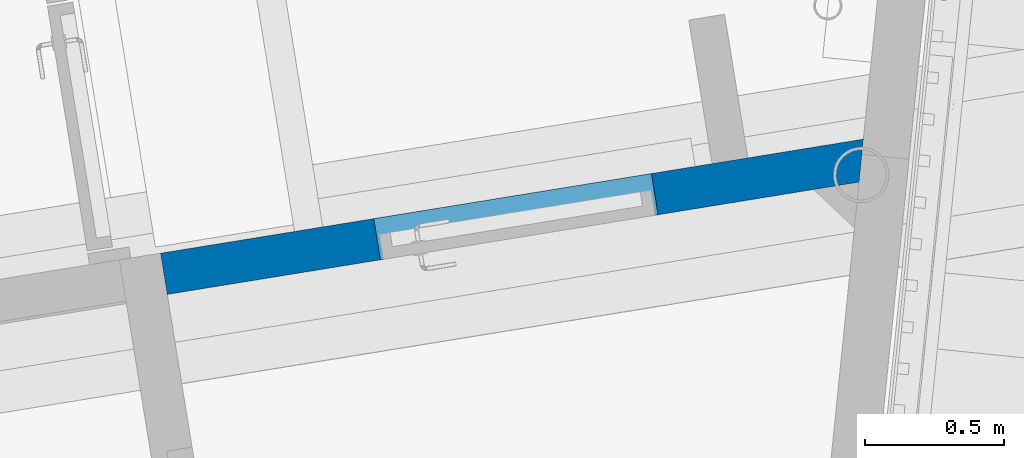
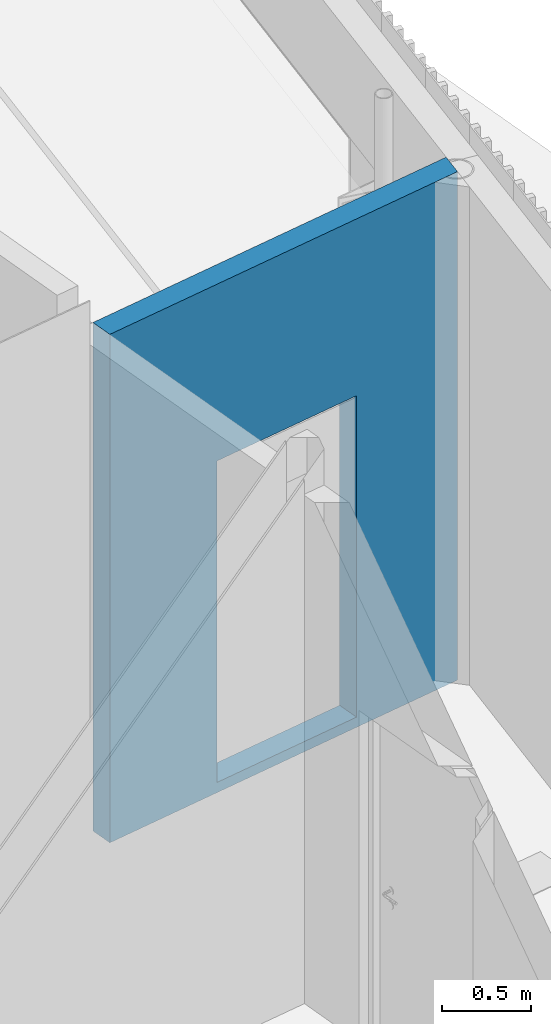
# One storey, part 20 of 23: 1 wall, 1 opening.
"""IFC2X3 building model written with IfcOpenShell, lengths in millimetres."""

from ifc_helpers import new_model, entity, si_unit, converted_unit, derived_unit, direction, frame, frame_2d, origin, origin_with_axes, place, context, subcontext, project, spatial, rectangle, extrude, faceted_brep, material, layer, layer_set, type_object, element, save


model = new_model("IFC2X3")

# Units and contexts
plan_context = context("Plan", 3, precision=1e-05, world=origin_with_axes())
model_context = context("Model", 3, precision=0.01, world=origin(), true_north=direction((6.12323399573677e-17, 1.0)))
body_context = subcontext(model_context, "Body", "Model", "MODEL_VIEW")
ifc_project = project(units=[converted_unit("PLANEANGLEUNIT", "DEGREE", entity("IfcPositiveLengthMeasure", 0.0174532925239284), si_unit("PLANEANGLEUNIT", "RADIAN"), dimensions=[0, 0, 0, 0, 0, 0, 0]), si_unit("AREAUNIT", "SQUARE_METRE"), si_unit("LENGTHUNIT", "METRE", prefix="MILLI"), si_unit("MASSUNIT", "GRAM", prefix="KILO"), si_unit("POWERUNIT", "WATT"), si_unit("PRESSUREUNIT", "PASCAL", prefix="KILO"), si_unit("FORCEUNIT", "NEWTON", prefix="KILO"), si_unit("ELECTRICVOLTAGEUNIT", "VOLT"), si_unit("ELECTRICCURRENTUNIT", "AMPERE"), si_unit("THERMODYNAMICTEMPERATUREUNIT", "DEGREE_CELSIUS"), si_unit("TIMEUNIT", "SECOND"), si_unit("VOLUMEUNIT", "CUBIC_METRE"), derived_unit("LINEARVELOCITYUNIT", [(si_unit("LENGTHUNIT", "METRE"), 1), (si_unit("TIMEUNIT", "SECOND"), -1)]), derived_unit("VOLUMETRICFLOWRATEUNIT", [(si_unit("VOLUMEUNIT", "CUBIC_METRE"), 1), (si_unit("TIMEUNIT", "SECOND"), -1)]), derived_unit("THERMALTRANSMITTANCEUNIT", [(si_unit("POWERUNIT", "WATT"), 1), (si_unit("THERMODYNAMICTEMPERATUREUNIT", "KELVIN"), -1), (si_unit("AREAUNIT", "SQUARE_METRE"), -1)]), derived_unit("SOUNDPRESSUREUNIT", [(si_unit("PRESSUREUNIT", "PASCAL"), 1)])], contexts=[model_context, plan_context])

# Site, building, storey
site_placement = place(None, frame((-0.00071070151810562, 0.00438415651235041, 0.0), z_axis=(0.0, 0.0, 1.0), x_axis=(-0.160236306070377, 0.987078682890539, 0.0)))
site = spatial("IfcSite", under=ifc_project, at=site_placement, Name="Default", CompositionType="ELEMENT")
building_placement = place(site_placement, origin_with_axes())
building = spatial("IfcBuilding", under=site, at=building_placement, Name="TOO", CompositionType="ELEMENT")
storey_placement = place(building_placement, frame((0.0, 0.0, 58999.9999999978), z_axis=(0.0, 0.0, 1.0), x_axis=(1.0, 0.0, 0.0)))
storey = spatial("IfcBuildingStorey", under=building, at=storey_placement, Name="Nivå F", CompositionType="ELEMENT", Elevation=58999.9999999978)

# Wall, opening
ifc_material_1 = material(Name="A240 - Gipsplate")
ifc_layer_1 = layer(ifc_material_1, 12.5)
ifc_layer_2 = layer(ifc_material_1, 12.5)
ifc_material_2 = material(Name="A200 - Isolasjon - Rock Wool")
ifc_layer_3 = layer(ifc_material_2, 100.0)
ifc_layer_4 = layer(ifc_material_1, 12.5)
ifc_layer_5 = layer(ifc_material_1, 12.5)
ifc_layer_set = layer_set([ifc_layer_1, ifc_layer_2, ifc_layer_3, ifc_layer_4, ifc_layer_5], Name="Basic Wall:A242 - GG100/100GG")
wall_type = type_object("IfcWallType", Name="Basic Wall:A242 - GG100/100GG", PredefinedType="STANDARD", material=ifc_layer_set)
wall_placement = place(storey_placement, frame((770927.619644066, -503979.729552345, -70.0), z_axis=(0.0, 0.0, 1.0), x_axis=(0.0, -1.0, 0.0)))
wall = element("IfcWall", 1, at=wall_placement, inside=storey, type_object=wall_type, Name="Basic Wall:A242 - GG100/100GG", ObjectType="Basic Wall:A242 - GG100/100GG", context=body_context, shape_type="Brep", body=[
    faceted_brep([(0.0, -75.0, 0.0), (2351.24821921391, -75.0, 0.0), (2508.80727096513, -75.0, 0.0), (2516.11370000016, -75.0, 0.0), (2516.11370000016, -75.0, 2770.0), (2516.11370000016, -75.0, 3480.0), (2508.80727096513, -75.0, 3480.0), (2351.24821921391, -75.0, 3480.0), (0.0, -75.0, 3480.0), (775.25094618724, -75.0, 2270.0), (1785.25094618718, -75.0, 2270.0), (1785.25094618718, -75.0, 70.0), (775.25094618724, -75.0, 70.0), (2555.97121809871, 75.0, 0.0), (2135.85438360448, 75.0, 0.0), (2005.85438360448, 75.0, 0.0), (0.0, 75.0, 0.0), (0.0, 75.0, 3480.0), (2556.30607886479, 75.0, 3480.0), (2556.30607886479, 75.0, 2770.0), (2555.97121809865, 75.0, 2770.0), (1785.25094618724, 75.0, 2270.0), (775.25094618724, 75.0, 2270.0), (775.25094618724, 75.0, 70.0), (1785.25094618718, 75.0, 70.0), (2541.79224018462, 22.0833340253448, 0.0), (2542.10466953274, 21.9996188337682, 0.0), (2542.10466953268, 21.9996188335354, 3480.0), (2542.10466953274, 21.9996188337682, 2770.0), (2541.79224018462, 22.0833340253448, 2770.0)], [[[0, 1, 2, 3, 4, 5, 6, 7, 8], [9, 10, 11, 12]], [[13, 14, 15, 16, 17, 18, 19, 20], [21, 22, 23, 24]], [[3, 2, 1, 0, 16, 15, 14, 13, 25, 26]], [[8, 7, 6, 5, 27, 18, 17]], [[0, 8, 17, 16]], [[21, 10, 9, 22]], [[22, 9, 12, 23]], [[23, 12, 11, 24]], [[10, 21, 24, 11]], [[20, 19, 28, 29]], [[4, 3, 26, 28]], [[26, 25, 29, 28]], [[13, 20, 29, 25]], [[5, 4, 28, 19, 18, 27]]]),
])
opening_placement = place(wall_placement, frame((1785.2509461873, 75.0, 70.0), z_axis=(0.0, 0.0, 1.0), x_axis=(1.0, 0.0, 0.0)))
element("IfcOpeningElement", 2, at=opening_placement, cuts=wall, Name="A200 - Slagdør - Enfløyet:A244 - DI_LSO - 0990 x 2190 mm:1", ObjectType="Opening", shape_type="SweptSolid", body=[
    extrude(rectangle(XDim=2199.99999999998, YDim=1010.0, at=frame_2d((1099.99999999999, 504.999999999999), x_axis=(1.0, 0.0))), frame((0.0, 0.0, 0.0), z_axis=(0.0, -1.0, 0.0), x_axis=(0.0, 0.0, 1.0)), (0.0, 0.0, 1.0), 150.0),
])

save(model, "model.ifc")
